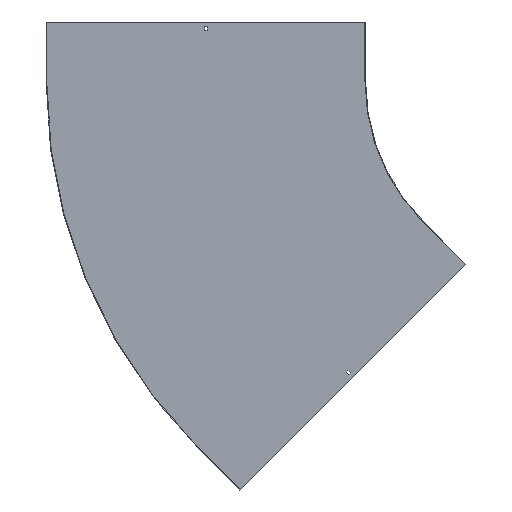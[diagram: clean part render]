
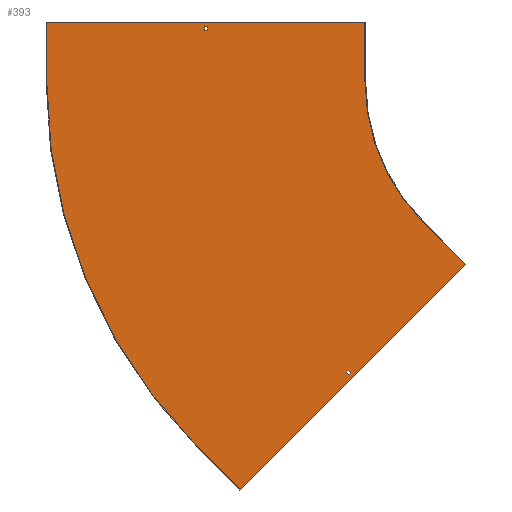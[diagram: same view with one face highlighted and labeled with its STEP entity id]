
A CAD part, front view. The second image highlights one B-rep face of the part: STEP entity #393.
In plain terms, the highlighted planar face has unit normal (0, -1, 0).
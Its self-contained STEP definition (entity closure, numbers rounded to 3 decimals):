
#8 = EDGE_CURVE ( 'NONE', #635, #159, #825, .T. ) ;
#11 = EDGE_CURVE ( 'NONE', #562, #635, #248, .T. ) ;
#20 = VERTEX_POINT ( 'NONE', #357 ) ;
#23 = LINE ( 'NONE', #230, #788 ) ;
#24 = CARTESIAN_POINT ( 'NONE',  ( -353.553, -1.5, -353.553 ) ) ;
#26 = CARTESIAN_POINT ( 'NONE',  ( -903.25, -1.5, 129. ) ) ;
#32 = CARTESIAN_POINT ( 'NONE',  ( -1300., -1.5, 0. ) ) ;
#46 = CARTESIAN_POINT ( 'NONE',  ( -246.427, -1.5, -458.559 ) ) ;
#53 = EDGE_CURVE ( 'NONE', #820, #376, #399, .T. ) ;
#56 = CARTESIAN_POINT ( 'NONE',  ( -1300., -1.5, 150. ) ) ;
#57 = EDGE_CURVE ( 'NONE', #540, #281, #652, .T. ) ;
#67 = LINE ( 'NONE', #664, #813 ) ;
#69 = FACE_BOUND ( 'NONE', #536, .T. ) ;
#72 = VERTEX_POINT ( 'NONE', #56 ) ;
#81 = ORIENTED_EDGE ( 'NONE', *, *, #11, .F. ) ;
#90 = ORIENTED_EDGE ( 'NONE', *, *, #706, .F. ) ;
#100 = CARTESIAN_POINT ( 'NONE',  ( -500., -1.5, 150. ) ) ;
#101 = ORIENTED_EDGE ( 'NONE', *, *, #133, .F. ) ;
#105 = VERTEX_POINT ( 'NONE', #380 ) ;
#107 = ORIENTED_EDGE ( 'NONE', *, *, #579, .F. ) ;
#108 = LINE ( 'NONE', #32, #143 ) ;
#110 = VERTEX_POINT ( 'NONE', #192 ) ;
#120 = DIRECTION ( 'NONE',  ( -0.707, 0., -0.707 ) ) ;
#124 = EDGE_LOOP ( 'NONE', ( #337, #225, #107, #294, #767, #101, #423, #490 ) ) ;
#132 = CARTESIAN_POINT ( 'NONE',  ( 0., -1.5, 0. ) ) ;
#133 = EDGE_CURVE ( 'NONE', #376, #612, #785, .T. ) ;
#140 = DIRECTION ( 'NONE',  ( -0.707, 0., -0.707 ) ) ;
#142 = AXIS2_PLACEMENT_3D ( 'NONE', #779, #314, #461 ) ;
#143 = VECTOR ( 'NONE', #286, 1000. ) ;
#159 = VERTEX_POINT ( 'NONE', #611 ) ;
#169 = LINE ( 'NONE', #46, #730 ) ;
#192 = CARTESIAN_POINT ( 'NONE',  ( -919.239, -1.5, -919.239 ) ) ;
#193 = VECTOR ( 'NONE', #694, 1000. ) ;
#208 = EDGE_CURVE ( 'NONE', #612, #613, #169, .T. ) ;
#220 = DIRECTION ( 'NONE',  ( 1., 0., 0. ) ) ;
#222 = CARTESIAN_POINT ( 'NONE',  ( -247.487, -1.5, -459.619 ) ) ;
#225 = ORIENTED_EDGE ( 'NONE', *, *, #853, .F. ) ;
#230 = CARTESIAN_POINT ( 'NONE',  ( -896.75, -1.5, 0. ) ) ;
#232 = CARTESIAN_POINT ( 'NONE',  ( -1301.5, -1.5, 150. ) ) ;
#241 = DIRECTION ( 'NONE',  ( -0.707, 0., 0.707 ) ) ;
#247 = DIRECTION ( 'NONE',  ( -0.707, 0., 0.707 ) ) ;
#248 = LINE ( 'NONE', #758, #346 ) ;
#262 = VECTOR ( 'NONE', #851, 1000. ) ;
#273 = DIRECTION ( 'NONE',  ( 0., -1., 0. ) ) ;
#276 = LINE ( 'NONE', #685, #373 ) ;
#279 = ORIENTED_EDGE ( 'NONE', *, *, #682, .T. ) ;
#281 = VERTEX_POINT ( 'NONE', #747 ) ;
#286 = DIRECTION ( 'NONE',  ( 0., 0., 1. ) ) ;
#294 = ORIENTED_EDGE ( 'NONE', *, *, #528, .F. ) ;
#310 = EDGE_CURVE ( 'NONE', #281, #549, #276, .T. ) ;
#314 = DIRECTION ( 'NONE',  ( 0., -1., 0. ) ) ;
#315 = CARTESIAN_POINT ( 'NONE',  ( -547.477, -1.5, -729.911 ) ) ;
#320 = DIRECTION ( 'NONE',  ( 0., 0., -1. ) ) ;
#330 = PLANE ( 'NONE',  #673 ) ;
#332 = ORIENTED_EDGE ( 'NONE', *, *, #310, .T. ) ;
#337 = ORIENTED_EDGE ( 'NONE', *, *, #819, .F. ) ;
#346 = VECTOR ( 'NONE', #429, 1000. ) ;
#357 = CARTESIAN_POINT ( 'NONE',  ( -1300., -1.5, 0. ) ) ;
#363 = DIRECTION ( 'NONE',  ( 0.707, 0., 0.707 ) ) ;
#367 = DIRECTION ( 'NONE',  ( 1., 0., 0. ) ) ;
#373 = VECTOR ( 'NONE', #220, 1000. ) ;
#376 = VERTEX_POINT ( 'NONE', #24 ) ;
#380 = CARTESIAN_POINT ( 'NONE',  ( -542.881, -1.5, -725.315 ) ) ;
#392 = CARTESIAN_POINT ( 'NONE',  ( -896.75, -1.5, 138. ) ) ;
#393 = ADVANCED_FACE ( 'NONE', ( #69, #495, #537 ), #330, .T. ) ;
#399 = CIRCLE ( 'NONE', #142, 500. ) ;
#418 = CARTESIAN_POINT ( 'NONE',  ( -500., -1.5, 0. ) ) ;
#423 = ORIENTED_EDGE ( 'NONE', *, *, #53, .F. ) ;
#427 = LINE ( 'NONE', #496, #193 ) ;
#429 = DIRECTION ( 'NONE',  ( 0.707, 0., -0.707 ) ) ;
#454 = DIRECTION ( 'NONE',  ( 0.707, 0., -0.707 ) ) ;
#456 = DIRECTION ( 'NONE',  ( 0., 1., 0. ) ) ;
#457 = EDGE_CURVE ( 'NONE', #494, #820, #572, .T. ) ;
#461 = DIRECTION ( 'NONE',  ( 0., 0., -1. ) ) ;
#474 = EDGE_CURVE ( 'NONE', #549, #573, #23, .T. ) ;
#476 = ORIENTED_EDGE ( 'NONE', *, *, #734, .F. ) ;
#482 = VECTOR ( 'NONE', #247, 1000. ) ;
#490 = ORIENTED_EDGE ( 'NONE', *, *, #457, .F. ) ;
#493 = CARTESIAN_POINT ( 'NONE',  ( -500., -1.5, 150. ) ) ;
#494 = VERTEX_POINT ( 'NONE', #100 ) ;
#495 = FACE_OUTER_BOUND ( 'NONE', #124, .T. ) ;
#496 = CARTESIAN_POINT ( 'NONE',  ( 0., -1.5, 129. ) ) ;
#498 = CARTESIAN_POINT ( 'NONE',  ( 97.581, -1.5, -97.581 ) ) ;
#499 = DIRECTION ( 'NONE',  ( 0., 0., -1. ) ) ;
#503 = VECTOR ( 'NONE', #753, 1000. ) ;
#507 = LINE ( 'NONE', #686, #482 ) ;
#519 = CARTESIAN_POINT ( 'NONE',  ( -353.553, -1.5, -353.553 ) ) ;
#524 = ORIENTED_EDGE ( 'NONE', *, *, #474, .T. ) ;
#528 = EDGE_CURVE ( 'NONE', #613, #110, #507, .T. ) ;
#532 = VECTOR ( 'NONE', #367, 1000. ) ;
#535 = EDGE_LOOP ( 'NONE', ( #332, #524, #279, #603 ) ) ;
#536 = EDGE_LOOP ( 'NONE', ( #90, #808, #81, #476 ) ) ;
#537 = FACE_BOUND ( 'NONE', #535, .T. ) ;
#540 = VERTEX_POINT ( 'NONE', #26 ) ;
#549 = VERTEX_POINT ( 'NONE', #392 ) ;
#550 = VECTOR ( 'NONE', #241, 1000. ) ;
#562 = VERTEX_POINT ( 'NONE', #315 ) ;
#570 = LINE ( 'NONE', #839, #550 ) ;
#572 = LINE ( 'NONE', #493, #503 ) ;
#573 = VERTEX_POINT ( 'NONE', #593 ) ;
#579 = EDGE_CURVE ( 'NONE', #110, #20, #604, .T. ) ;
#588 = CARTESIAN_POINT ( 'NONE',  ( -903.25, -1.5, 0. ) ) ;
#593 = CARTESIAN_POINT ( 'NONE',  ( -896.75, -1.5, 129. ) ) ;
#601 = CARTESIAN_POINT ( 'NONE',  ( 0., -1.5, 0. ) ) ;
#603 = ORIENTED_EDGE ( 'NONE', *, *, #57, .T. ) ;
#604 = CIRCLE ( 'NONE', #630, 1300. ) ;
#611 = CARTESIAN_POINT ( 'NONE',  ( -536.517, -1.5, -731.679 ) ) ;
#612 = VERTEX_POINT ( 'NONE', #222 ) ;
#613 = VERTEX_POINT ( 'NONE', #634 ) ;
#630 = AXIS2_PLACEMENT_3D ( 'NONE', #132, #456, #320 ) ;
#634 = CARTESIAN_POINT ( 'NONE',  ( -813.173, -1.5, -1025.305 ) ) ;
#635 = VERTEX_POINT ( 'NONE', #756 ) ;
#644 = VECTOR ( 'NONE', #454, 1000. ) ;
#652 = LINE ( 'NONE', #588, #262 ) ;
#664 = CARTESIAN_POINT ( 'NONE',  ( 91.217, -1.5, -91.217 ) ) ;
#673 = AXIS2_PLACEMENT_3D ( 'NONE', #601, #273, #755 ) ;
#682 = EDGE_CURVE ( 'NONE', #573, #540, #427, .T. ) ;
#685 = CARTESIAN_POINT ( 'NONE',  ( 0., -1.5, 138. ) ) ;
#686 = CARTESIAN_POINT ( 'NONE',  ( -813.173, -1.5, -1025.305 ) ) ;
#694 = DIRECTION ( 'NONE',  ( -1., 0., 0. ) ) ;
#706 = EDGE_CURVE ( 'NONE', #159, #105, #570, .T. ) ;
#727 = VECTOR ( 'NONE', #363, 1000. ) ;
#730 = VECTOR ( 'NONE', #120, 1000. ) ;
#734 = EDGE_CURVE ( 'NONE', #105, #562, #67, .T. ) ;
#747 = CARTESIAN_POINT ( 'NONE',  ( -903.25, -1.5, 138. ) ) ;
#753 = DIRECTION ( 'NONE',  ( 0., 0., -1. ) ) ;
#755 = DIRECTION ( 'NONE',  ( 0., 0., -1. ) ) ;
#756 = CARTESIAN_POINT ( 'NONE',  ( -541.113, -1.5, -736.275 ) ) ;
#758 = CARTESIAN_POINT ( 'NONE',  ( -638.694, -1.5, -638.694 ) ) ;
#767 = ORIENTED_EDGE ( 'NONE', *, *, #208, .F. ) ;
#769 = LINE ( 'NONE', #232, #532 ) ;
#779 = CARTESIAN_POINT ( 'NONE',  ( 0., -1.5, 0. ) ) ;
#785 = LINE ( 'NONE', #519, #644 ) ;
#788 = VECTOR ( 'NONE', #499, 1000. ) ;
#808 = ORIENTED_EDGE ( 'NONE', *, *, #8, .F. ) ;
#813 = VECTOR ( 'NONE', #140, 1000. ) ;
#819 = EDGE_CURVE ( 'NONE', #72, #494, #769, .T. ) ;
#820 = VERTEX_POINT ( 'NONE', #418 ) ;
#825 = LINE ( 'NONE', #498, #727 ) ;
#839 = CARTESIAN_POINT ( 'NONE',  ( -634.098, -1.5, -634.098 ) ) ;
#851 = DIRECTION ( 'NONE',  ( 0., 0., 1. ) ) ;
#853 = EDGE_CURVE ( 'NONE', #20, #72, #108, .T. ) ;
